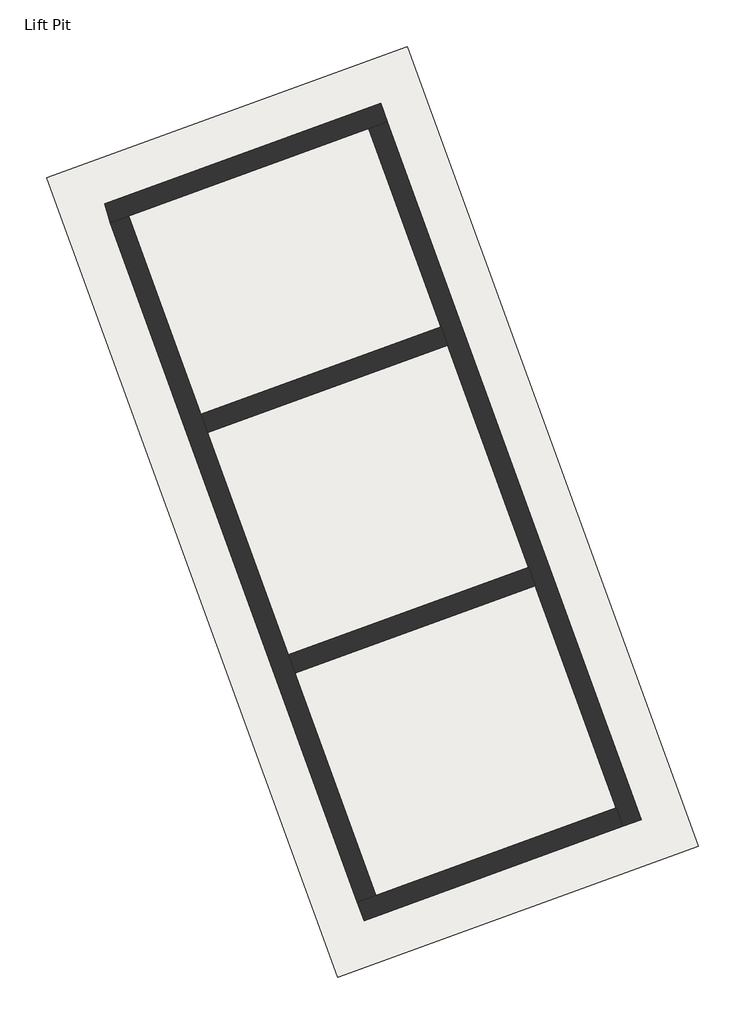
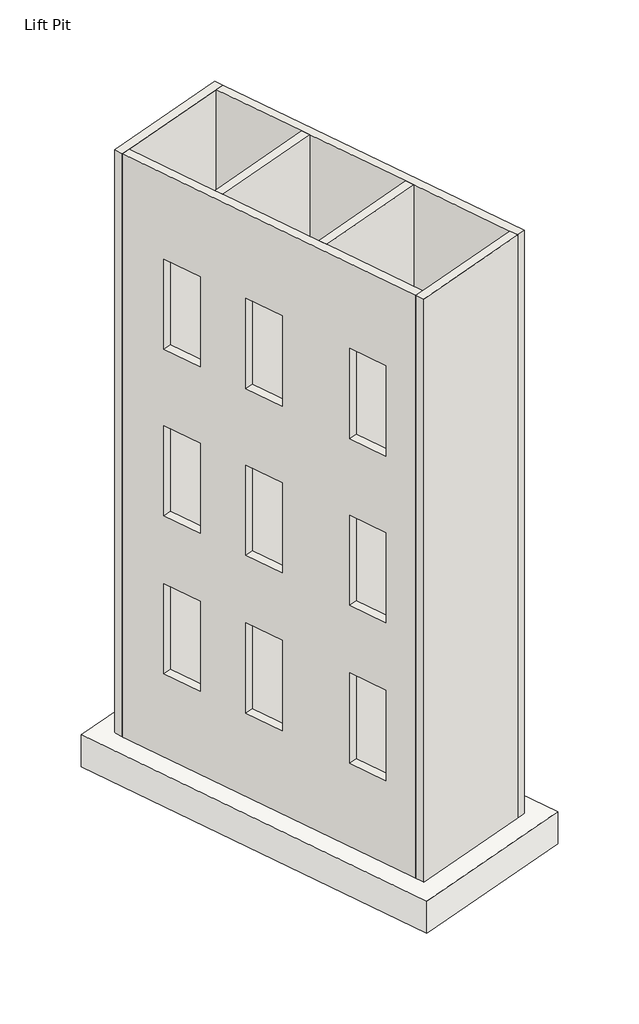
# One storey: 6 walls, 1 slab.
"""IFC4 building model written with IfcOpenShell, lengths in millimetres."""

import ifcopenshell
import ifcopenshell.guid

model = None  # the IFC model being written
_history = None  # IfcOwnerHistory: only IFC2X3 demands one
_inside = {}  # id of a spatial element -> (the spatial element, [elements in it])
_under = {}  # id of a project, library or spatial element -> (it, [spatial elements below it])
_declared = {}  # id of a project -> (the project, [libraries it declares])
_typed = {}  # id of a type object -> (the type object, [elements of that type])
_made_of = {}  # id of a material, layer set ... -> (it, [elements and type objects made of it])


def new_model(schema):
    """Start an empty IFC model of exactly this schema.

    Asked for "IFC4X3", IfcOpenShell would pick the latest addendum, in which some entities
    have other attributes; the version numbers below select the first issue.
    IFC2X3 requires an IfcOwnerHistory on every rooted entity: one is made here for all.
    """
    global model, _history
    if schema == "IFC4X3":
        model = ifcopenshell.file(schema_version=(4, 3, 0, 0))
    else:
        model = ifcopenshell.file(schema=schema)
    _inside.clear()
    _under.clear()
    _declared.clear()
    _typed.clear()
    _made_of.clear()
    _history = None
    if model.schema == "IFC2X3":
        org = make("IfcOrganization", Name="unknown")
        user = make(
            "IfcPersonAndOrganization",
            ThePerson=make("IfcPerson", FamilyName="unknown"),
            TheOrganization=org,
        )
        app = make(
            "IfcApplication",
            ApplicationDeveloper=org,
            Version="unknown",
            ApplicationFullName="unknown",
            ApplicationIdentifier="unknown",
        )
        _history = make(
            "IfcOwnerHistory",
            OwningUser=user,
            OwningApplication=app,
            ChangeAction="ADDED",
            CreationDate=0,
        )
    return model


def make(cls, **values):
    """One entity of the class cls with the attributes given. An attribute that is None is left unset."""
    return model.create_entity(
        cls, **{name: value for name, value in values.items() if value is not None}
    )


def rooted(cls, **values):
    """An entity with a GlobalId (a new one), such as an element, a storey or a relation."""
    return make(cls, GlobalId=ifcopenshell.guid.new(), OwnerHistory=_history, **values)


def si_unit(unit_type, name, prefix=None):
    """IfcSIUnit, for example si_unit("LENGTHUNIT", "METRE", prefix="MILLI")."""
    return make("IfcSIUnit", UnitType=unit_type, Prefix=prefix, Name=name)


def assignment(units):
    """IfcUnitAssignment: the units of a project."""
    return None if units is None else make("IfcUnitAssignment", Units=units)


def point(xyz):
    """IfcCartesianPoint."""
    return None if xyz is None else make("IfcCartesianPoint", Coordinates=xyz)


def direction(xyz):
    """IfcDirection."""
    return None if xyz is None else make("IfcDirection", DirectionRatios=xyz)


def frame(location, z_axis=None, x_axis=None):
    """IfcAxis2Placement3D, a coordinate frame: its origin and axes. An axis left out is left unset."""
    return make(
        "IfcAxis2Placement3D",
        Location=point(location),
        Axis=direction(z_axis),
        RefDirection=direction(x_axis),
    )


def origin():
    """The frame at (0, 0, 0) with its axes left unset."""
    return frame((0.0, 0.0, 0.0))


def place(relative_to, where):
    """IfcLocalPlacement: puts the frame where relative to a parent placement (None: the world)."""
    return make(
        "IfcLocalPlacement", PlacementRelTo=relative_to, RelativePlacement=where
    )


def context(
    kind, dimensions, precision=None, world=None, true_north=None, identifier=None
):
    """IfcGeometricRepresentationContext, for example the 3D "Model" context."""
    return make(
        "IfcGeometricRepresentationContext",
        ContextIdentifier=identifier,
        ContextType=kind,
        CoordinateSpaceDimension=dimensions,
        Precision=precision,
        WorldCoordinateSystem=world,
        TrueNorth=true_north,
    )


def project(units=None, contexts=None):
    """IfcProject with its units and contexts."""
    return rooted(
        "IfcProject",
        Name="project",
        RepresentationContexts=contexts,
        UnitsInContext=assignment(units),
    )


def spatial(cls, under=None, at=None, **own):
    """A site, building, storey or space (cls), placed at a placement, below another one or the project."""
    s = rooted(cls, ObjectPlacement=at, **own)
    if under is not None:
        _under.setdefault(under.id(), (under, []))[1].append(s)
    return s


def polyline(points):
    """IfcPolyline through the points."""
    return make("IfcPolyline", Points=[point(p) for p in points])


def outline(outer, holes=None, kind="AREA"):
    """IfcArbitraryClosedProfileDef: a profile drawn as a closed curve; with holes, ...WithVoids."""
    if holes is None:
        return make("IfcArbitraryClosedProfileDef", ProfileType=kind, OuterCurve=outer)
    return make(
        "IfcArbitraryProfileDefWithVoids",
        ProfileType=kind,
        OuterCurve=outer,
        InnerCurves=holes,
    )


def extrude(swept, where, along, depth):
    """IfcExtrudedAreaSolid: the profile swept, set in the frame where, extruded along a direction by depth."""
    return make(
        "IfcExtrudedAreaSolid",
        SweptArea=swept,
        Position=where,
        ExtrudedDirection=direction(along),
        Depth=depth,
    )


def faces_of(points, faces, orient=None, outer=None):
    """IfcFace entities. A face is a list of loops; a loop is a list of indices into points, from 0.

    orient and outer hold one flag for each loop. By default every Orientation is true, the
    first loop of a face is its IfcFaceOuterBound and the others are IfcFaceBound.
    """
    made = []
    for i, loops in enumerate(faces):
        bounds = []
        for j, loop in enumerate(loops):
            is_outer = j == 0 if outer is None else outer[i][j]
            bounds.append(
                make(
                    "IfcFaceOuterBound" if is_outer else "IfcFaceBound",
                    Bound=make("IfcPolyLoop", Polygon=[points[k] for k in loop]),
                    Orientation=True if orient is None else orient[i][j],
                )
            )
        made.append(make("IfcFace", Bounds=bounds))
    return made


def faceted_brep(points, faces, orient=None, outer=None, voids=None):
    """IfcFacetedBrep: a solid bounded by flat faces; with voids (closed shells), ...WithVoids."""
    shared = [point(p) for p in points]
    hull = make("IfcClosedShell", CfsFaces=faces_of(shared, faces, orient, outer))
    if voids is None:
        return make("IfcFacetedBrep", Outer=hull)
    return make(
        "IfcFacetedBrepWithVoids",
        Outer=hull,
        Voids=[
            make(cls, CfsFaces=faces_of(shared, fs, o, b)) for cls, fs, o, b in voids
        ],
    )


def shape(context_of_items, identifier, shape_type, items):
    """IfcShapeRepresentation: the items that make up one representation, for example the "Body"."""
    return make(
        "IfcShapeRepresentation",
        ContextOfItems=context_of_items,
        RepresentationIdentifier=identifier,
        RepresentationType=shape_type,
        Items=items,
    )


def made_of(thing, what):
    """Note that an element or type object is made of a material, layer set ...; save() writes the relation."""
    if what is not None:
        _made_of.setdefault(what.id(), (what, []))[1].append(thing)
    return thing


def element(
    cls,
    number,
    at=None,
    inside=None,
    cuts=None,
    type_object=None,
    material=None,
    context=None,
    identifier="Body",
    shape_type=None,
    held_by="IfcProductDefinitionShape",
    body=None,
    shapes=None,
    **own,
):
    """One element of the class cls, such as IfcWall. Its Tag is "e" and its number.

    at: its placement. inside: the storey or other place that contains it. cuts: it is an
    opening in that element (IfcRelVoidsElement). A single representation is given by context,
    identifier, shape_type and body (its items); several are given by shapes. held_by: the class
    of the entity that holds the representations. save() writes the other relations.
    """
    e = rooted(cls, Tag="e%d" % number, ObjectPlacement=at, **own)
    if body is not None:
        shapes = [shape(context, identifier, shape_type, body)]
    if shapes is not None:
        e.Representation = make(held_by, Representations=shapes)
    if inside is not None:
        _inside.setdefault(inside.id(), (inside, []))[1].append(e)
    if cuts is not None:
        rooted(
            "IfcRelVoidsElement", RelatingBuildingElement=cuts, RelatedOpeningElement=e
        )
    if type_object is not None:
        _typed.setdefault(type_object.id(), (type_object, []))[1].append(e)
    return made_of(e, material)


def aggregate(whole, parts):
    """IfcRelAggregates: a whole, such as a stair, and the parts it consists of."""
    return rooted("IfcRelAggregates", RelatingObject=whole, RelatedObjects=parts)


def save(model, path):
    """Write the relations noted so far, then the file.

    IfcRelAggregates (storeys below a building ...), IfcRelContainedInSpatialStructure (elements
    in a storey), IfcRelDefinesByType, IfcRelAssociatesMaterial and IfcRelDeclares: one each for
    every whole, place, type object, material and project.
    """
    for whole, parts in _under.values():
        aggregate(whole, parts)
    for where, things in _inside.values():
        rooted(
            "IfcRelContainedInSpatialStructure",
            RelatedElements=things,
            RelatingStructure=where,
        )
    for kind, things in _typed.values():
        rooted("IfcRelDefinesByType", RelatedObjects=things, RelatingType=kind)
    for what, things in _made_of.values():
        rooted("IfcRelAssociatesMaterial", RelatedObjects=things, RelatingMaterial=what)
    for by, libraries in _declared.values():
        rooted("IfcRelDeclares", RelatingContext=by, RelatedDefinitions=libraries)
    model.write(path)


model = new_model("IFC4")

# Units and contexts
model_context = context("Model", 3, world=origin())
ifc_project = project(units=[si_unit("LENGTHUNIT", "METRE", prefix="MILLI")], contexts=[model_context])

# Site, building, storey
site = spatial("IfcSite", under=ifc_project)
building = spatial("IfcBuilding", under=site)
storey = spatial("IfcBuildingStorey", under=building, Name="Lift Pit", Elevation=-1950.0)

# Slab
placement = place(None, origin())
element("IfcSlab", 1, ObjectType="750 RC SLAB", at=placement, inside=storey, context=model_context, shape_type="SweptSolid", body=[
    extrude(outline(polyline([(38224.7247183, 10390.2706294), (41182.0702914, 2265.0304453), (37517.2690702, 931.1518864), (34559.9234972, 9056.3920706), (38224.7247183, 10390.2706294)])), frame((0.0, 0.0, -2700.0), z_axis=(0.0, 0.0, 1.0), x_axis=(1.0, 0.0, 0.0)), (0.0, 0.0, 1.0), 750.0),
])

# Walls
element("IfcWall", 2, ObjectType="RC WALL 200", at=placement, inside=storey, context=model_context, shape_type="Brep", body=[
    faceted_brep([(35205.0982701, 8599.5009317, -1950.0), (35393.0367939, 8667.9049602, -1950.0), (37836.2376079, 9557.1573328, -1950.0), (38024.1761321, 9625.5613614, -1950.0), (38024.1761321, 9625.5613614, 11700.0), (37836.2376079, 9557.1573328, 11700.0), (35393.0367939, 8667.9049602, 11700.0), (35205.0982701, 8599.5009317, 11700.0), (35153.1367317, 8793.4240329, -1950.0), (35153.1367317, 8793.4240329, 11700.0), (37955.7721034, 9813.4998856, 11700.0), (37955.7721034, 9813.4998856, -1950.0)], [[[0, 1, 2, 3, 4, 5, 6, 7]], [[8, 9, 10, 11]], [[3, 2, 1, 0, 8, 11]], [[7, 6, 5, 4, 10, 9]], [[0, 7, 9, 8]], [[4, 3, 11, 10]]]),
])
element("IfcWall", 3, ObjectType="RC WALL 200", at=placement, inside=storey, context=model_context, shape_type="Brep", body=[
    faceted_brep([(37836.2376079, 9557.1573328, -1950.0), (38570.0121342, 7541.1283909, -1950.0), (38638.4161628, 7353.1898667, -1950.0), (39459.2645067, 5097.9275768, -1950.0), (39527.6685354, 4909.9890526, -1950.0), (40348.9569947, 2653.5175556, -1950.0), (40417.3610234, 2465.5790315, -1950.0), (40417.3610234, 2465.5790315, 11700.0), (40348.9569947, 2653.5175556, 11700.0), (39527.6685354, 4909.9890526, 11700.0), (39459.2645067, 5097.9275768, 11700.0), (38638.4161628, 7353.1898667, 11700.0), (38570.0121342, 7541.1283909, 11700.0), (37836.2376079, 9557.1573328, 11700.0), (38024.1761321, 9625.5613614, -1950.0), (38024.1761321, 9625.5613614, 11700.0), (40605.2995475, 2533.9830601, 11700.0), (40605.2995475, 2533.9830601, -1950.0)], [[[0, 1, 2, 3, 4, 5, 6, 7, 8, 9, 10, 11, 12, 13]], [[14, 15, 16, 17]], [[6, 5, 4, 3, 2, 1, 0, 14, 17]], [[13, 12, 11, 10, 9, 8, 7, 16, 15]], [[0, 13, 15, 14]], [[7, 6, 17, 16]]]),
])
element("IfcWall", 4, ObjectType="RC WALL 200", at=placement, inside=storey, context=model_context, shape_type="Brep", body=[
    faceted_brep([(40348.9569947, 2653.5175556, -1950.0), (37905.7561806, 1764.2651831, -1950.0), (37717.8176565, 1695.8611544, -1950.0), (37717.8176565, 1695.8611544, 11700.0), (37905.7561806, 1764.2651831, 11700.0), (40348.9569947, 2653.5175556, 11700.0), (40417.3610234, 2465.5790315, -1950.0), (40417.3610234, 2465.5790315, 11700.0), (37786.2216851, 1507.9226302, 11700.0), (37786.2216851, 1507.9226302, -1950.0)], [[[0, 1, 2, 3, 4, 5]], [[6, 7, 8, 9]], [[2, 1, 0, 6, 9]], [[5, 4, 3, 8, 7]], [[0, 5, 7, 6]], [[3, 2, 9, 8]]]),
])
element("IfcWall", 5, ObjectType="RC WALL 200", at=placement, inside=storey, context=model_context, shape_type="Brep", body=[
    faceted_brep([(37905.7561806, 1764.2651831, -1950.0), (37084.4677213, 4020.73668, -1950.0), (37016.0636927, 4208.6752042, -1950.0), (36195.2153487, 6463.9374941, -1950.0), (36126.8113201, 6651.8760183, -1950.0), (35393.0367939, 8667.9049602, -1950.0), (35393.0367939, 8667.9049602, 11700.0), (36126.8113201, 6651.8760183, 11700.0), (36195.2153487, 6463.9374941, 11700.0), (37016.0636927, 4208.6752042, 11700.0), (37084.4677213, 4020.73668, 11700.0), (37905.7561806, 1764.2651831, 11700.0), (36058.4072915, 6839.8145422, 2110.0), (35747.1689611, 7694.9348271, 2110.0), (35747.1689611, 7694.9348271, 0.0), (36058.4072915, 6839.8145422, 0.0), (36759.5485852, 4913.4446698, 2110.0), (36448.3102548, 5768.5649548, 2110.0), (36448.3102548, 5768.5649548, 0.0), (36759.5485852, 4913.4446698, 0.0), (37648.4224802, 2471.2837143, 2110.0), (37337.1841498, 3326.4039992, 2110.0), (37337.1841498, 3326.4039992, 0.0), (37648.4224802, 2471.2837143, 0.0), (37648.4224802, 2471.2837143, 5805.0), (37337.1841498, 3326.4039992, 5805.0), (37337.1841498, 3326.4039992, 3695.0), (37648.4224802, 2471.2837143, 3695.0), (36759.5485852, 4913.4446698, 5805.0), (36448.3102548, 5768.5649548, 5805.0), (36448.3102548, 5768.5649548, 3695.0), (36759.5485852, 4913.4446698, 3695.0), (36058.4072915, 6839.8145422, 5805.0), (35747.1689611, 7694.9348271, 5805.0), (35747.1689611, 7694.9348271, 3695.0), (36058.4072915, 6839.8145422, 3695.0), (37648.4224802, 2471.2837143, 9705.0), (37337.1841498, 3326.4039992, 9705.0), (37337.1841498, 3326.4039992, 7595.0), (37648.4224802, 2471.2837143, 7595.0), (36759.5485852, 4913.4446698, 9705.0), (36448.3102548, 5768.5649548, 9705.0), (36448.3102548, 5768.5649548, 7595.0), (36759.5485852, 4913.4446698, 7595.0), (36058.4072915, 6839.8145422, 9705.0), (35747.1689611, 7694.9348271, 9705.0), (35747.1689611, 7694.9348271, 7595.0), (36058.4072915, 6839.8145422, 7595.0), (37717.8176565, 1695.8611544, -1950.0), (37717.8176565, 1695.8611544, 11700.0), (35205.0982697, 8599.5009315, 11700.0), (35205.0982697, 8599.5009315, -1950.0), (35870.4687673, 6771.4105136, 2110.0), (35870.4687673, 6771.4105136, 0.0), (35559.2304369, 7626.5307985, 0.0), (35559.2304369, 7626.5307985, 2110.0), (36571.610061, 4845.0406412, 2110.0), (36571.610061, 4845.0406412, 0.0), (36260.3717306, 5700.1609261, 0.0), (36260.3717306, 5700.1609261, 2110.0), (37460.483956, 2402.8796856, 2110.0), (37460.483956, 2402.8796856, 0.0), (37149.2456256, 3257.9999705, 0.0), (37149.2456256, 3257.9999705, 2110.0), (37460.483956, 2402.8796856, 5805.0), (37460.483956, 2402.8796856, 3695.0), (37149.2456256, 3257.9999705, 3695.0), (37149.2456256, 3257.9999705, 5805.0), (36571.610061, 4845.0406412, 5805.0), (36571.610061, 4845.0406412, 3695.0), (36260.3717306, 5700.1609261, 3695.0), (36260.3717306, 5700.1609261, 5805.0), (35870.4687673, 6771.4105136, 5805.0), (35870.4687673, 6771.4105136, 3695.0), (35559.2304369, 7626.5307985, 3695.0), (35559.2304369, 7626.5307985, 5805.0), (37460.483956, 2402.8796856, 9705.0), (37460.483956, 2402.8796856, 7595.0), (37149.2456256, 3257.9999705, 7595.0), (37149.2456256, 3257.9999705, 9705.0), (36571.610061, 4845.0406412, 9705.0), (36571.610061, 4845.0406412, 7595.0), (36260.3717306, 5700.1609261, 7595.0), (36260.3717306, 5700.1609261, 9705.0), (35870.4687673, 6771.4105136, 9705.0), (35870.4687673, 6771.4105136, 7595.0), (35559.2304369, 7626.5307985, 7595.0), (35559.2304369, 7626.5307985, 9705.0)], [[[0, 1, 2, 3, 4, 5, 6, 7, 8, 9, 10, 11], [12, 13, 14, 15], [16, 17, 18, 19], [20, 21, 22, 23], [24, 25, 26, 27], [28, 29, 30, 31], [32, 33, 34, 35], [36, 37, 38, 39], [40, 41, 42, 43], [44, 45, 46, 47]], [[48, 49, 50, 51], [52, 53, 54, 55], [56, 57, 58, 59], [60, 61, 62, 63], [64, 65, 66, 67], [68, 69, 70, 71], [72, 73, 74, 75], [76, 77, 78, 79], [80, 81, 82, 83], [84, 85, 86, 87]], [[5, 4, 3, 2, 1, 0, 48, 51]], [[11, 10, 9, 8, 7, 6, 50, 49]], [[0, 11, 49, 48]], [[53, 52, 12, 15]], [[54, 53, 15, 14]], [[55, 54, 14, 13]], [[52, 55, 13, 12]], [[57, 56, 16, 19]], [[58, 57, 19, 18]], [[59, 58, 18, 17]], [[56, 59, 17, 16]], [[61, 60, 20, 23]], [[62, 61, 23, 22]], [[63, 62, 22, 21]], [[60, 63, 21, 20]], [[65, 64, 24, 27]], [[66, 65, 27, 26]], [[67, 66, 26, 25]], [[64, 67, 25, 24]], [[69, 68, 28, 31]], [[70, 69, 31, 30]], [[71, 70, 30, 29]], [[68, 71, 29, 28]], [[73, 72, 32, 35]], [[74, 73, 35, 34]], [[75, 74, 34, 33]], [[72, 75, 33, 32]], [[77, 76, 36, 39]], [[78, 77, 39, 38]], [[79, 78, 38, 37]], [[76, 79, 37, 36]], [[81, 80, 40, 43]], [[82, 81, 43, 42]], [[83, 82, 42, 41]], [[80, 83, 41, 40]], [[85, 84, 44, 47]], [[86, 85, 47, 46]], [[87, 86, 46, 45]], [[84, 87, 45, 44]], [[5, 51, 50, 6]]]),
])
element("IfcWall", 6, ObjectType="RC WALL 200", at=placement, inside=storey, context=model_context, shape_type="SweptSolid", body=[
    extrude(outline(polyline([(38638.4161628, 7353.1898667), (36195.2153487, 6463.9374941), (36126.8113201, 6651.8760183), (38570.0121342, 7541.1283909), (38638.4161628, 7353.1898667)])), frame((0.0, 0.0, -1950.0), z_axis=(0.0, 0.0, 1.0), x_axis=(1.0, 0.0, 0.0)), (0.0, 0.0, 1.0), 13650.0),
])
element("IfcWall", 7, ObjectType="RC WALL 200", at=placement, inside=storey, context=model_context, shape_type="SweptSolid", body=[
    extrude(outline(polyline([(39527.6685354, 4909.9890526), (37084.4677213, 4020.73668), (37016.0636927, 4208.6752042), (39459.2645067, 5097.9275768), (39527.6685354, 4909.9890526)])), frame((0.0, 0.0, -1950.0), z_axis=(0.0, 0.0, 1.0), x_axis=(1.0, 0.0, 0.0)), (0.0, 0.0, 1.0), 13650.0),
])

save(model, "model.ifc")
